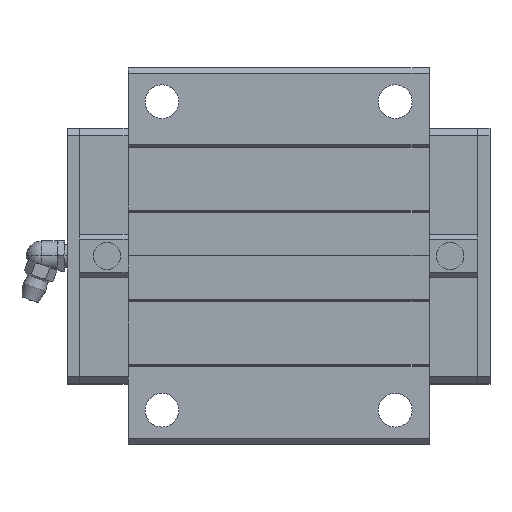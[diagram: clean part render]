
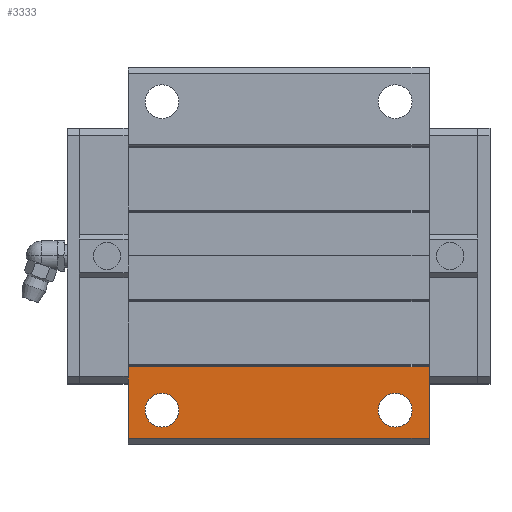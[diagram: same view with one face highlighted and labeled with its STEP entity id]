
A CAD part, top view. The second image highlights one B-rep face of the part: STEP entity #3333.
In plain terms, the highlighted planar face has unit normal (0, 0, 1).
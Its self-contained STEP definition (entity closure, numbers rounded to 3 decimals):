
#2929=CARTESIAN_POINT('POINT194',(96.2,-48.5,
   41.5));
#2930=VERTEX_POINT('VERTEX194',#2929);
#2937=CARTESIAN_POINT('POINT195',(16.2,-48.5,
   41.5));
#2938=VERTEX_POINT('VERTEX195',#2937);
#2939=CARTESIAN_POINT('POS313',(16.2,-48.5,
   41.5));
#2940=DIRECTION('DIR440',(1.,0.,0.));
#2941=VECTOR('VEC186',#2940,1.);
#2942=LINE('STRAIGHT186',#2939,#2941);
#2943=EDGE_CURVE('EDGE285',#2938,#2930,#2942,.T.);
#2983=CARTESIAN_POINT('POINT197',(16.2,-29.5,
   41.5));
#2984=VERTEX_POINT('VERTEX197',#2983);
#2985=CARTESIAN_POINT('POS318',(16.2,-48.5,
   41.5));
#2986=DIRECTION('DIR446',(0.,1.,0.));
#2987=VECTOR('VEC190',#2986,1.);
#2988=LINE('STRAIGHT190',#2985,#2987);
#2989=EDGE_CURVE('EDGE289',#2938,#2984,#2988,.T.);
#3048=CARTESIAN_POINT('POINT198',(96.2,-29.5,
   41.5));
#3049=VERTEX_POINT('VERTEX198',#3048);
#3058=CARTESIAN_POINT('POS322',(16.2,-29.5,
   41.5));
#3059=DIRECTION('DIR451',(1.,0.,0.));
#3060=VECTOR('VEC193',#3059,1.);
#3061=LINE('STRAIGHT193',#3058,#3060);
#3062=EDGE_CURVE('EDGE292',#2984,#3049,#3061,.T.);
#3117=CARTESIAN_POINT('POS324',(96.2,-48.5,
   41.5));
#3118=DIRECTION('DIR454',(0.,1.,0.));
#3119=VECTOR('VEC194',#3118,1.);
#3120=LINE('STRAIGHT194',#3117,#3119);
#3121=EDGE_CURVE('EDGE293',#2930,#3049,#3120,.T.);
#3146=CARTESIAN_POINT('POINT199',(91.7,-41.,41.5));
#3147=VERTEX_POINT('VERTEX199',#3146);
#3154=CARTESIAN_POINT('POINT200',(82.7,-41.,
   41.5));
#3155=VERTEX_POINT('VERTEX200',#3154);
#3156=CARTESIAN_POINT('POS328',(87.2,-41.,
   41.5));
#3157=DIRECTION('DIR459',(0.,0.,-1.));
#3158=DIRECTION('DIR460',(1.,0.,0.));
#3159=AXIS2_PLACEMENT_3D('AXIS132',#3156,#3157,#3158);
#3160=CIRCLE('ELLIPSE63',#3159,4.5);
#3161=EDGE_CURVE('EDGE296',#3155,#3147,#3160,.T.);
#3181=EDGE_CURVE('EDGE298',#3147,#3155,#3160,.T.);
#3303=ORIENTED_EDGE('COEDGE603',*,*,#3181,.T.);
#3304=ORIENTED_EDGE('COEDGE604',*,*,#3161,.T.);
#3305=EDGE_LOOP('NONE',(#3303,#3304));
#3306=FACE_BOUND('LOOP1',#3305,.T.);
#3307=CARTESIAN_POINT('POINT205',(29.7,-41.,41.5));
#3308=VERTEX_POINT('VERTEX205',#3307);
#3309=CARTESIAN_POINT('POINT206',(20.7,-41.,
   41.5));
#3310=VERTEX_POINT('VERTEX206',#3309);
#3311=CARTESIAN_POINT('POS343',(25.2,-41.,
   41.5));
#3312=DIRECTION('DIR481',(0.,0.,-1.));
#3313=DIRECTION('DIR482',(1.,0.,0.));
#3314=AXIS2_PLACEMENT_3D('AXIS139',#3311,#3312,#3313);
#3315=CIRCLE('ELLIPSE65',#3314,4.5);
#3316=EDGE_CURVE('EDGE307',#3308,#3310,#3315,.T.);
#3317=ORIENTED_EDGE('COEDGE605',*,*,#3316,.T.);
#3318=EDGE_CURVE('EDGE308',#3310,#3308,#3315,.T.);
#3319=ORIENTED_EDGE('COEDGE606',*,*,#3318,.T.);
#3320=EDGE_LOOP('NONE',(#3317,#3319));
#3321=FACE_BOUND('LOOP1',#3320,.T.);
#3322=ORIENTED_EDGE('COEDGE607',*,*,#3121,.T.);
#3323=ORIENTED_EDGE('COEDGE608',*,*,#3062,.F.);
#3324=ORIENTED_EDGE('COEDGE609',*,*,#2989,.F.);
#3325=ORIENTED_EDGE('COEDGE610',*,*,#2943,.T.);
#3326=EDGE_LOOP('NONE',(#3322,#3323,#3324,#3325));
#3327=FACE_BOUND('LOOP1',#3326,.T.);
#3328=CARTESIAN_POINT('POS344',(16.2,-48.5,
   41.5));
#3329=DIRECTION('DIR483',(0.,0.,1.));
#3330=DIRECTION('DIR484',(1.,0.,0.));
#3331=AXIS2_PLACEMENT_3D('AXIS140',#3328,#3329,#3330);
#3332=PLANE('PLANE51',#3331);
#3333=ADVANCED_FACE('FACE103',(#3306,#3321,#3327),#3332,.T.);
